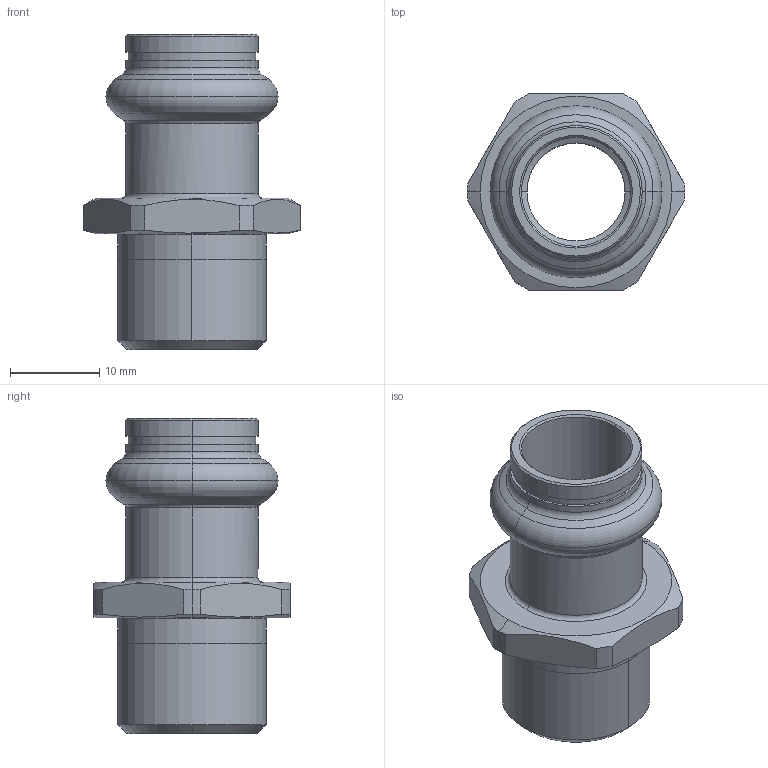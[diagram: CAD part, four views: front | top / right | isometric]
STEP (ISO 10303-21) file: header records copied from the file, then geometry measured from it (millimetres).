
FILE_DESCRIPTION(('CoCreate Modeling STEP Export'),'2;1');
FILE_NAME('8243GVW1238.stp','2013-03-05T10:30:33',(''),(''),'CoCreate Modeling STEP processor for AP214 (Solid Model)','CoCreate Modeling 17.00A 17-Jun-2010 (C) Parametric Technology GmbH','');
FILE_SCHEMA(('AUTOMOTIVE_DESIGN { 1 0 10303 214 1 1 1 1 }'));
Length unit declared in the file: millimetre
Products named in the file (1): 8243GVW1238
Bounding box: 24.4 x 22 x 35.36 mm (x, y, z)
Volume: 4291.8 mm3; surface area: 3844.1 mm2
Topology: 1 solids, 1 shells, 64 faces, 147 edges, 89 vertices
Faces by surface type: cylinder 26, cone 16, plane 12, torus 10
Entity records: 2131 total; most frequent: CARTESIAN_POINT 904, ORIENTED_EDGE 294, DIRECTION 190, EDGE_CURVE 147, VERTEX_POINT 89, AXIS2_PLACEMENT_3D 71, EDGE_LOOP 70, FACE_OUTER_BOUND 64
